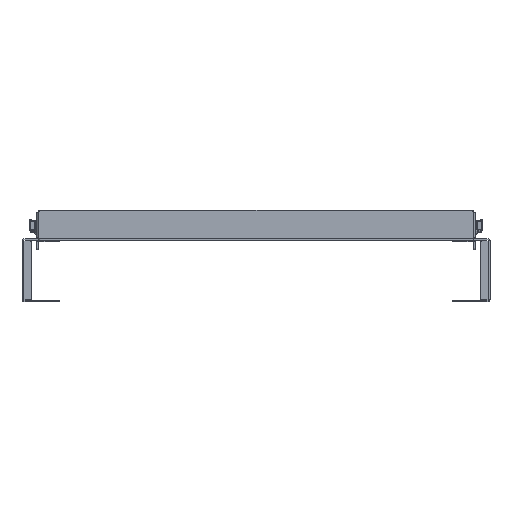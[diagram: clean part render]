
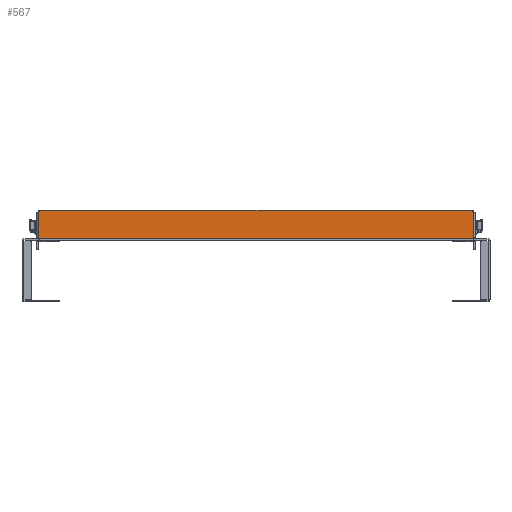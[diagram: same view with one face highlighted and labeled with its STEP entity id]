
A CAD part, front view. The second image highlights one B-rep face of the part: STEP entity #567.
In plain terms, the highlighted planar face has unit normal (0, -1, 0) as drawn and (0, 1, 0) by its records, which use the part's own axes.
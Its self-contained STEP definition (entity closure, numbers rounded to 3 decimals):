
#133 = ORIENTED_EDGE ( 'NONE', *, *, #23680, .T. ) ;
#151 = LINE ( 'NONE', #23318, #25651 ) ;
#567 = ADVANCED_FACE ( 'NONE', ( #11557 ), #9755, .F. ) ;
#652 = EDGE_CURVE ( 'NONE', #24338, #16307, #1889, .T. ) ;
#892 = VECTOR ( 'NONE', #26930, 1000. ) ;
#933 = EDGE_CURVE ( 'NONE', #15519, #1724, #24201, .T. ) ;
#1400 = AXIS2_PLACEMENT_3D ( 'NONE', #15699, #20237, #17261 ) ;
#1605 = CARTESIAN_POINT ( 'NONE',  ( -13.735, 1.5, 229. ) ) ;
#1724 = VERTEX_POINT ( 'NONE', #2640 ) ;
#1799 = CIRCLE ( 'NONE', #16353, 2. ) ;
#1889 = LINE ( 'NONE', #16237, #23455 ) ;
#2640 = CARTESIAN_POINT ( 'NONE',  ( 13.4, 1.5, 229. ) ) ;
#2687 = EDGE_CURVE ( 'NONE', #14496, #16307, #26802, .T. ) ;
#2767 = DIRECTION ( 'NONE',  ( 0., 0., -1. ) ) ;
#3208 = ORIENTED_EDGE ( 'NONE', *, *, #933, .T. ) ;
#5233 = EDGE_CURVE ( 'NONE', #22991, #24338, #18336, .T. ) ;
#7256 = CARTESIAN_POINT ( 'NONE',  ( -13.4, 1.5, 229. ) ) ;
#7415 = VECTOR ( 'NONE', #26516, 1000. ) ;
#7852 = CARTESIAN_POINT ( 'NONE',  ( 13.4, 1.5, -229. ) ) ;
#8172 = VECTOR ( 'NONE', #16261, 1000. ) ;
#8396 = ORIENTED_EDGE ( 'NONE', *, *, #9348, .T. ) ;
#8465 = EDGE_CURVE ( 'NONE', #11407, #1724, #16582, .T. ) ;
#8651 = CARTESIAN_POINT ( 'NONE',  ( 13.835, 1.5, -227. ) ) ;
#9348 = EDGE_CURVE ( 'NONE', #9399, #13185, #1799, .T. ) ;
#9399 = VERTEX_POINT ( 'NONE', #12511 ) ;
#9755 = PLANE ( 'NONE',  #1400 ) ;
#10029 = DIRECTION ( 'NONE',  ( -1., 0., 0. ) ) ;
#10719 = DIRECTION ( 'NONE',  ( 1., 0., 0. ) ) ;
#11133 = ORIENTED_EDGE ( 'NONE', *, *, #5233, .T. ) ;
#11190 = VECTOR ( 'NONE', #22385, 1000. ) ;
#11407 = VERTEX_POINT ( 'NONE', #16876 ) ;
#11557 = FACE_OUTER_BOUND ( 'NONE', #19811, .T. ) ;
#12315 = CARTESIAN_POINT ( 'NONE',  ( -13.735, 1.5, 229. ) ) ;
#12362 = ORIENTED_EDGE ( 'NONE', *, *, #17574, .T. ) ;
#12401 = CARTESIAN_POINT ( 'NONE',  ( -15.835, 1.5, 229. ) ) ;
#12429 = CIRCLE ( 'NONE', #21255, 2. ) ;
#12431 = VECTOR ( 'NONE', #18007, 1000. ) ;
#12511 = CARTESIAN_POINT ( 'NONE',  ( 15.835, 1.5, -227. ) ) ;
#12597 = EDGE_CURVE ( 'NONE', #11407, #27066, #12429, .T. ) ;
#12649 = ORIENTED_EDGE ( 'NONE', *, *, #8465, .F. ) ;
#13143 = DIRECTION ( 'NONE',  ( 0., 1., 0. ) ) ;
#13185 = VERTEX_POINT ( 'NONE', #19982 ) ;
#13568 = CARTESIAN_POINT ( 'NONE',  ( -15.835, 1.5, -229. ) ) ;
#13760 = CARTESIAN_POINT ( 'NONE',  ( -13.4, 1.5, -229. ) ) ;
#14496 = VERTEX_POINT ( 'NONE', #1605 ) ;
#15519 = VERTEX_POINT ( 'NONE', #15752 ) ;
#15598 = CARTESIAN_POINT ( 'NONE',  ( 15.835, 1.5, 227. ) ) ;
#15625 = ORIENTED_EDGE ( 'NONE', *, *, #2687, .F. ) ;
#15699 = CARTESIAN_POINT ( 'NONE',  ( -15.835, 1.5, 229. ) ) ;
#15752 = CARTESIAN_POINT ( 'NONE',  ( -13.4, 1.5, 229. ) ) ;
#16237 = CARTESIAN_POINT ( 'NONE',  ( -15.835, 1.5, -229. ) ) ;
#16261 = DIRECTION ( 'NONE',  ( -1., 0., 0. ) ) ;
#16307 = VERTEX_POINT ( 'NONE', #26043 ) ;
#16353 = AXIS2_PLACEMENT_3D ( 'NONE', #8651, #25332, #10719 ) ;
#16582 = LINE ( 'NONE', #20591, #892 ) ;
#16876 = CARTESIAN_POINT ( 'NONE',  ( 13.835, 1.5, 229. ) ) ;
#17261 = DIRECTION ( 'NONE',  ( 1., 0., 0. ) ) ;
#17560 = VECTOR ( 'NONE', #23625, 1000. ) ;
#17574 = EDGE_CURVE ( 'NONE', #13185, #22991, #21444, .T. ) ;
#17707 = EDGE_CURVE ( 'NONE', #15519, #14496, #22376, .T. ) ;
#17714 = ORIENTED_EDGE ( 'NONE', *, *, #17707, .F. ) ;
#18007 = DIRECTION ( 'NONE',  ( 1., 0., 0. ) ) ;
#18336 = LINE ( 'NONE', #7852, #8172 ) ;
#19614 = DIRECTION ( 'NONE',  ( 1., 0., 0. ) ) ;
#19811 = EDGE_LOOP ( 'NONE', ( #12649, #24562, #133, #8396, #12362, #11133, #22615, #15625, #17714, #3208 ) ) ;
#19982 = CARTESIAN_POINT ( 'NONE',  ( 13.835, 1.5, -229. ) ) ;
#20237 = DIRECTION ( 'NONE',  ( 0., -1., 0. ) ) ;
#20591 = CARTESIAN_POINT ( 'NONE',  ( -15.835, 1.5, 229. ) ) ;
#21255 = AXIS2_PLACEMENT_3D ( 'NONE', #24010, #13143, #19614 ) ;
#21444 = LINE ( 'NONE', #13568, #17560 ) ;
#22376 = LINE ( 'NONE', #12401, #7415 ) ;
#22385 = DIRECTION ( 'NONE',  ( 0., 0., -1. ) ) ;
#22615 = ORIENTED_EDGE ( 'NONE', *, *, #652, .T. ) ;
#22991 = VERTEX_POINT ( 'NONE', #26445 ) ;
#23318 = CARTESIAN_POINT ( 'NONE',  ( 15.835, 1.5, 229. ) ) ;
#23455 = VECTOR ( 'NONE', #10029, 1000. ) ;
#23625 = DIRECTION ( 'NONE',  ( -1., 0., 0. ) ) ;
#23680 = EDGE_CURVE ( 'NONE', #27066, #9399, #151, .T. ) ;
#24010 = CARTESIAN_POINT ( 'NONE',  ( 13.835, 1.5, 227. ) ) ;
#24201 = LINE ( 'NONE', #7256, #12431 ) ;
#24338 = VERTEX_POINT ( 'NONE', #13760 ) ;
#24562 = ORIENTED_EDGE ( 'NONE', *, *, #12597, .T. ) ;
#25332 = DIRECTION ( 'NONE',  ( 0., 1., 0. ) ) ;
#25651 = VECTOR ( 'NONE', #2767, 1000. ) ;
#26043 = CARTESIAN_POINT ( 'NONE',  ( -13.735, 1.5, -229. ) ) ;
#26445 = CARTESIAN_POINT ( 'NONE',  ( 13.4, 1.5, -229. ) ) ;
#26516 = DIRECTION ( 'NONE',  ( -1., 0., 0. ) ) ;
#26802 = LINE ( 'NONE', #12315, #11190 ) ;
#26930 = DIRECTION ( 'NONE',  ( -1., 0., 0. ) ) ;
#27066 = VERTEX_POINT ( 'NONE', #15598 ) ;
